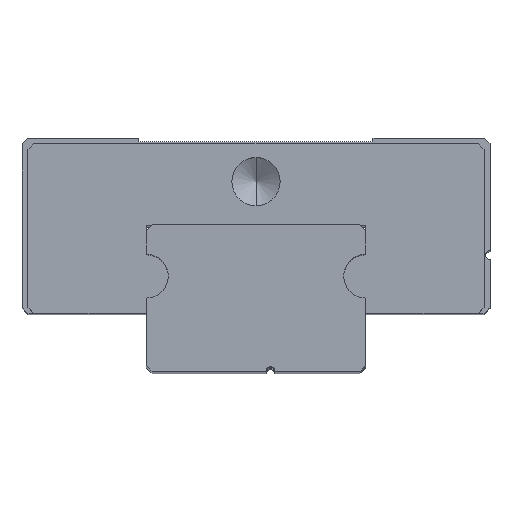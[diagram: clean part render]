
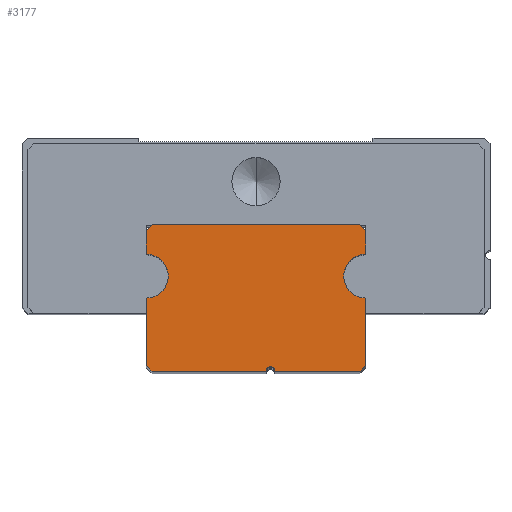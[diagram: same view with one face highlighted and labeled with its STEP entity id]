
A CAD part, top view. The second image highlights one B-rep face of the part: STEP entity #3177.
In plain terms, the highlighted planar face has unit normal (0, 0, 1).
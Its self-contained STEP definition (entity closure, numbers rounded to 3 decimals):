
#76 = CARTESIAN_POINT ( 'NONE',  ( -7.5, 0.4, 55. ) ) ;
#93 = CARTESIAN_POINT ( 'NONE',  ( 7.5, 8., 55. ) ) ;
#100 = CIRCLE ( 'NONE', #515, 1.5 ) ;
#103 = EDGE_CURVE ( 'NONE', #1464, #2444, #2403, .T. ) ;
#104 = VERTEX_POINT ( 'NONE', #1310 ) ;
#114 = EDGE_LOOP ( 'NONE', ( #3305, #2633, #3522, #4236, #3550, #4803, #787, #3215, #932, #3577, #1608, #2546, #634, #3478, #207 ) ) ;
#165 = AXIS2_PLACEMENT_3D ( 'NONE', #4575, #4206, #3816 ) ;
#193 = LINE ( 'NONE', #4287, #3150 ) ;
#207 = ORIENTED_EDGE ( 'NONE', *, *, #4660, .T. ) ;
#282 = EDGE_CURVE ( 'NONE', #104, #2383, #193, .T. ) ;
#515 = AXIS2_PLACEMENT_3D ( 'NONE', #4093, #636, #992 ) ;
#532 = CARTESIAN_POINT ( 'NONE',  ( 7.5, 6.5, 55. ) ) ;
#578 = DIRECTION ( 'NONE',  ( -1., 0., 0. ) ) ;
#585 = LINE ( 'NONE', #912, #4269 ) ;
#634 = ORIENTED_EDGE ( 'NONE', *, *, #646, .T. ) ;
#635 = CIRCLE ( 'NONE', #1417, 0.3 ) ;
#636 = DIRECTION ( 'NONE',  ( 0., 0., 1. ) ) ;
#646 = EDGE_CURVE ( 'NONE', #4138, #2383, #4914, .T. ) ;
#671 = DIRECTION ( 'NONE',  ( -1., 0., 0. ) ) ;
#680 = EDGE_CURVE ( 'NONE', #2341, #2463, #2701, .T. ) ;
#701 = EDGE_CURVE ( 'NONE', #771, #2341, #4073, .T. ) ;
#732 = CARTESIAN_POINT ( 'NONE',  ( -7.1, 0., 55. ) ) ;
#771 = VERTEX_POINT ( 'NONE', #1565 ) ;
#787 = ORIENTED_EDGE ( 'NONE', *, *, #2064, .T. ) ;
#819 = CIRCLE ( 'NONE', #2727, 1.5 ) ;
#847 = EDGE_CURVE ( 'NONE', #2568, #1738, #4733, .T. ) ;
#857 = VECTOR ( 'NONE', #1681, 1000. ) ;
#906 = DIRECTION ( 'NONE',  ( 0.707, 0.707, 0. ) ) ;
#912 = CARTESIAN_POINT ( 'NONE',  ( 7.1, 10., 55. ) ) ;
#919 = DIRECTION ( 'NONE',  ( -1., 0., 0. ) ) ;
#932 = ORIENTED_EDGE ( 'NONE', *, *, #4713, .T. ) ;
#992 = DIRECTION ( 'NONE',  ( -1., 0., 0. ) ) ;
#1006 = DIRECTION ( 'NONE',  ( 0., -1., 0. ) ) ;
#1048 = CARTESIAN_POINT ( 'NONE',  ( 7.1, 0., 55. ) ) ;
#1070 = PLANE ( 'NONE',  #165 ) ;
#1098 = VERTEX_POINT ( 'NONE', #4648 ) ;
#1258 = VECTOR ( 'NONE', #2112, 1000. ) ;
#1261 = DIRECTION ( 'NONE',  ( 0., 0., -1. ) ) ;
#1310 = CARTESIAN_POINT ( 'NONE',  ( 0.7, 0., 55. ) ) ;
#1333 = CARTESIAN_POINT ( 'NONE',  ( 1., 0., 55. ) ) ;
#1417 = AXIS2_PLACEMENT_3D ( 'NONE', #1333, #1261, #919 ) ;
#1452 = LINE ( 'NONE', #3343, #3514 ) ;
#1464 = VERTEX_POINT ( 'NONE', #3516 ) ;
#1507 = VECTOR ( 'NONE', #906, 1000. ) ;
#1538 = CARTESIAN_POINT ( 'NONE',  ( 7.5, 9.6, 55. ) ) ;
#1565 = CARTESIAN_POINT ( 'NONE',  ( 6., 6.5, 55. ) ) ;
#1589 = CARTESIAN_POINT ( 'NONE',  ( -7.1, 10., 55. ) ) ;
#1608 = ORIENTED_EDGE ( 'NONE', *, *, #2702, .F. ) ;
#1642 = CARTESIAN_POINT ( 'NONE',  ( 1., 0., 55. ) ) ;
#1681 = DIRECTION ( 'NONE',  ( 0., 1., 0. ) ) ;
#1738 = VERTEX_POINT ( 'NONE', #3180 ) ;
#2026 = LINE ( 'NONE', #4740, #3589 ) ;
#2064 = EDGE_CURVE ( 'NONE', #2277, #4545, #585, .T. ) ;
#2106 = CARTESIAN_POINT ( 'NONE',  ( 7.5, 0.4, 55. ) ) ;
#2112 = DIRECTION ( 'NONE',  ( -1., 0., 0. ) ) ;
#2277 = VERTEX_POINT ( 'NONE', #1538 ) ;
#2341 = VERTEX_POINT ( 'NONE', #3165 ) ;
#2367 = DIRECTION ( 'NONE',  ( -1., 0., 0. ) ) ;
#2383 = VERTEX_POINT ( 'NONE', #4404 ) ;
#2403 = LINE ( 'NONE', #2459, #857 ) ;
#2435 = CARTESIAN_POINT ( 'NONE',  ( 7.5, 0.4, 55. ) ) ;
#2444 = VERTEX_POINT ( 'NONE', #4751 ) ;
#2453 = CARTESIAN_POINT ( 'NONE',  ( -7.5, 9.6, 55. ) ) ;
#2459 = CARTESIAN_POINT ( 'NONE',  ( -7.5, 0., 55. ) ) ;
#2463 = VERTEX_POINT ( 'NONE', #2106 ) ;
#2517 = EDGE_CURVE ( 'NONE', #4545, #2935, #3787, .T. ) ;
#2546 = ORIENTED_EDGE ( 'NONE', *, *, #4657, .F. ) ;
#2568 = VERTEX_POINT ( 'NONE', #1048 ) ;
#2633 = ORIENTED_EDGE ( 'NONE', *, *, #3439, .T. ) ;
#2667 = EDGE_CURVE ( 'NONE', #3506, #771, #819, .T. ) ;
#2701 = LINE ( 'NONE', #3050, #3665 ) ;
#2702 = EDGE_CURVE ( 'NONE', #1098, #1464, #100, .T. ) ;
#2726 = CARTESIAN_POINT ( 'NONE',  ( 7.5, 6.5, 55. ) ) ;
#2727 = AXIS2_PLACEMENT_3D ( 'NONE', #532, #4057, #578 ) ;
#2793 = LINE ( 'NONE', #2435, #1507 ) ;
#2926 = DIRECTION ( 'NONE',  ( 0.707, -0.707, 0. ) ) ;
#2935 = VERTEX_POINT ( 'NONE', #1589 ) ;
#3050 = CARTESIAN_POINT ( 'NONE',  ( 7.5, 0., 55. ) ) ;
#3150 = VECTOR ( 'NONE', #3976, 1000. ) ;
#3165 = CARTESIAN_POINT ( 'NONE',  ( 7.5, 5., 55. ) ) ;
#3177 = ADVANCED_FACE ( 'NONE', ( #3710 ), #1070, .F. ) ;
#3180 = CARTESIAN_POINT ( 'NONE',  ( 1.3, 0., 55. ) ) ;
#3215 = ORIENTED_EDGE ( 'NONE', *, *, #2517, .T. ) ;
#3305 = ORIENTED_EDGE ( 'NONE', *, *, #847, .F. ) ;
#3343 = CARTESIAN_POINT ( 'NONE',  ( 7.5, 0., 55. ) ) ;
#3439 = EDGE_CURVE ( 'NONE', #2568, #2463, #2793, .T. ) ;
#3478 = ORIENTED_EDGE ( 'NONE', *, *, #282, .F. ) ;
#3506 = VERTEX_POINT ( 'NONE', #93 ) ;
#3514 = VECTOR ( 'NONE', #1006, 1000. ) ;
#3516 = CARTESIAN_POINT ( 'NONE',  ( -7.5, 8., 55. ) ) ;
#3522 = ORIENTED_EDGE ( 'NONE', *, *, #680, .F. ) ;
#3526 = EDGE_CURVE ( 'NONE', #2277, #3506, #1452, .T. ) ;
#3533 = DIRECTION ( 'NONE',  ( 0., -1., 0. ) ) ;
#3538 = DIRECTION ( 'NONE',  ( 0., 1., 0. ) ) ;
#3550 = ORIENTED_EDGE ( 'NONE', *, *, #2667, .F. ) ;
#3577 = ORIENTED_EDGE ( 'NONE', *, *, #103, .F. ) ;
#3589 = VECTOR ( 'NONE', #3538, 1000. ) ;
#3665 = VECTOR ( 'NONE', #3533, 1000. ) ;
#3709 = CARTESIAN_POINT ( 'NONE',  ( 7.5, 10., 55. ) ) ;
#3710 = FACE_OUTER_BOUND ( 'NONE', #114, .T. ) ;
#3750 = VECTOR ( 'NONE', #2926, 1000. ) ;
#3787 = LINE ( 'NONE', #3709, #4654 ) ;
#3816 = DIRECTION ( 'NONE',  ( 0., -1., 0. ) ) ;
#3976 = DIRECTION ( 'NONE',  ( -1., 0., 0. ) ) ;
#3977 = CARTESIAN_POINT ( 'NONE',  ( 7.1, 10., 55. ) ) ;
#4003 = DIRECTION ( 'NONE',  ( -0.707, -0.707, 0. ) ) ;
#4057 = DIRECTION ( 'NONE',  ( 0., 0., 1. ) ) ;
#4073 = CIRCLE ( 'NONE', #4451, 1.5 ) ;
#4093 = CARTESIAN_POINT ( 'NONE',  ( -7.5, 6.5, 55. ) ) ;
#4138 = VERTEX_POINT ( 'NONE', #76 ) ;
#4206 = DIRECTION ( 'NONE',  ( 0., 0., -1. ) ) ;
#4236 = ORIENTED_EDGE ( 'NONE', *, *, #701, .F. ) ;
#4243 = DIRECTION ( 'NONE',  ( 0., 0., 1. ) ) ;
#4269 = VECTOR ( 'NONE', #4330, 1000. ) ;
#4287 = CARTESIAN_POINT ( 'NONE',  ( 1., 0., 55. ) ) ;
#4330 = DIRECTION ( 'NONE',  ( -0.707, 0.707, 0. ) ) ;
#4364 = LINE ( 'NONE', #2453, #4701 ) ;
#4404 = CARTESIAN_POINT ( 'NONE',  ( -7.1, 0., 55. ) ) ;
#4451 = AXIS2_PLACEMENT_3D ( 'NONE', #2726, #4243, #2367 ) ;
#4545 = VERTEX_POINT ( 'NONE', #3977 ) ;
#4575 = CARTESIAN_POINT ( 'NONE',  ( 1., 0., 55. ) ) ;
#4648 = CARTESIAN_POINT ( 'NONE',  ( -7.5, 5., 55. ) ) ;
#4654 = VECTOR ( 'NONE', #671, 1000. ) ;
#4657 = EDGE_CURVE ( 'NONE', #4138, #1098, #2026, .T. ) ;
#4660 = EDGE_CURVE ( 'NONE', #104, #1738, #635, .T. ) ;
#4701 = VECTOR ( 'NONE', #4003, 1000. ) ;
#4713 = EDGE_CURVE ( 'NONE', #2935, #2444, #4364, .T. ) ;
#4733 = LINE ( 'NONE', #1642, #1258 ) ;
#4740 = CARTESIAN_POINT ( 'NONE',  ( -7.5, 0., 55. ) ) ;
#4751 = CARTESIAN_POINT ( 'NONE',  ( -7.5, 9.6, 55. ) ) ;
#4803 = ORIENTED_EDGE ( 'NONE', *, *, #3526, .F. ) ;
#4914 = LINE ( 'NONE', #732, #3750 ) ;
